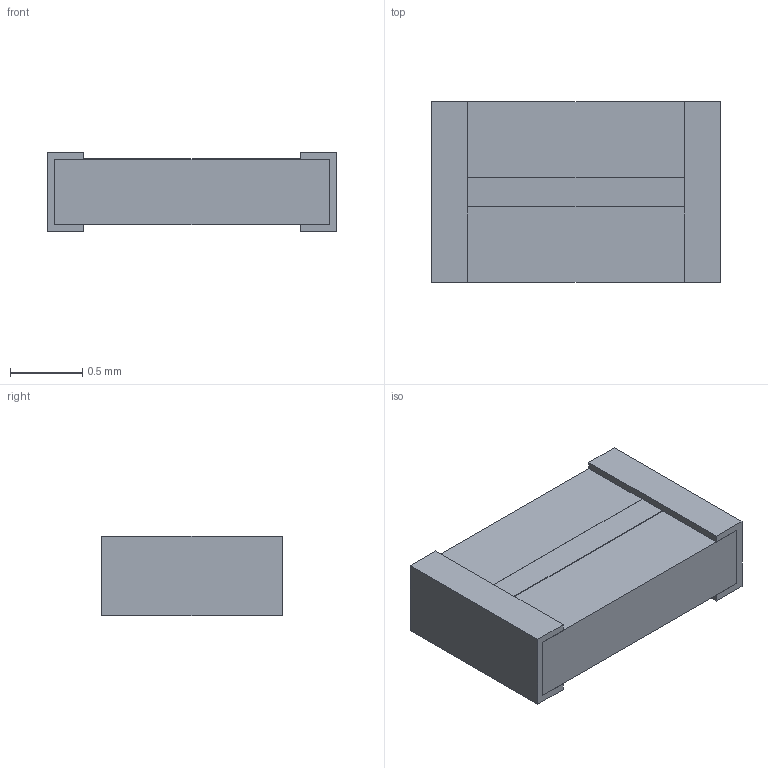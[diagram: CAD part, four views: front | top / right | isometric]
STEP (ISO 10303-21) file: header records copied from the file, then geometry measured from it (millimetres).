
FILE_DESCRIPTION(('STEP AP203'), '1');
FILE_NAME('Ð1-8 0805 ', '', ('UNSPECIFIED'), ('UNSPECIFIED'), 'ASCON STEP Converter 1.6', 'ASCON Math Kernel', '');
FILE_SCHEMA(('CONFIG_CONTROL_DESIGN'));
Length unit declared in the file: millimetre
Bounding box: 2 x 1.25 x 0.55 mm (x, y, z)
Volume: 1.2 mm3; surface area: 13.7 mm2
Topology: 4 solids, 5 shells, 51 faces, 123 edges, 82 vertices
Faces by surface type: plane 47, cylinder 4
Entity records: 1937 total; most frequent: CARTESIAN_POINT 257, ORIENTED_EDGE 246, DIRECTION 235, EDGE_CURVE 123, LINE 115, VECTOR 115, VERTEX_POINT 82, AXIS2_PLACEMENT_3D 60
